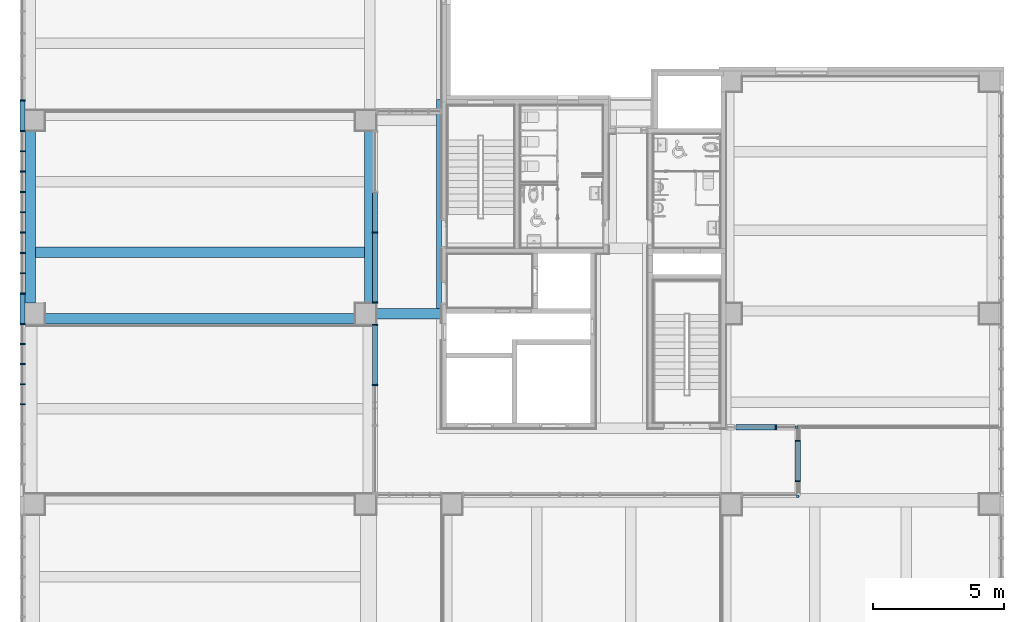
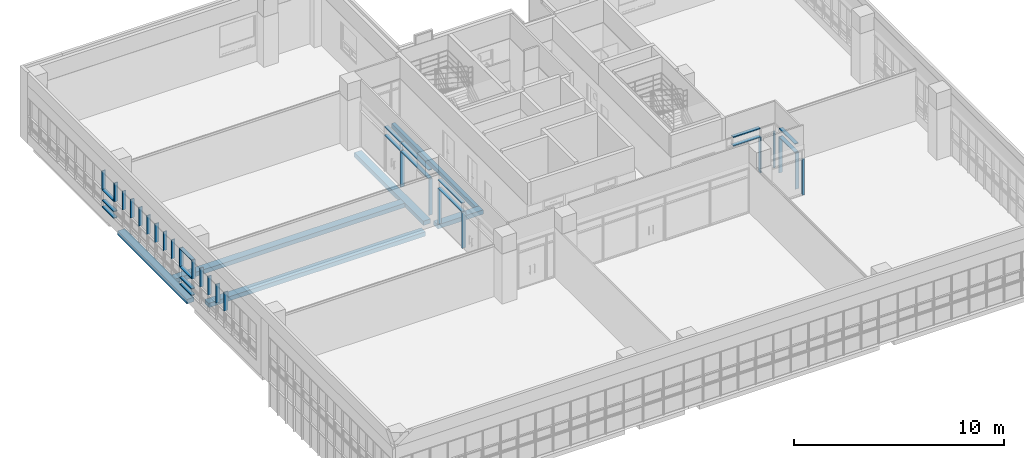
# One storey, part 5 of 81: 41 members, 6 beams, 5 elements without a shape of their own.
"""IFC2X3 building model written with IfcOpenShell, lengths in millimetres."""

import ifcopenshell
import ifcopenshell.guid

model = None  # the IFC model being written
_history = None  # IfcOwnerHistory: only IFC2X3 demands one
_inside = {}  # id of a spatial element -> (the spatial element, [elements in it])
_under = {}  # id of a project, library or spatial element -> (it, [spatial elements below it])
_declared = {}  # id of a project -> (the project, [libraries it declares])
_typed = {}  # id of a type object -> (the type object, [elements of that type])
_made_of = {}  # id of a material, layer set ... -> (it, [elements and type objects made of it])


def new_model(schema):
    """Start an empty IFC model of exactly this schema.

    Asked for "IFC4X3", IfcOpenShell would pick the latest addendum, in which some entities
    have other attributes; the version numbers below select the first issue.
    IFC2X3 requires an IfcOwnerHistory on every rooted entity: one is made here for all.
    """
    global model, _history
    if schema == "IFC4X3":
        model = ifcopenshell.file(schema_version=(4, 3, 0, 0))
    else:
        model = ifcopenshell.file(schema=schema)
    _inside.clear()
    _under.clear()
    _declared.clear()
    _typed.clear()
    _made_of.clear()
    _history = None
    if model.schema == "IFC2X3":
        org = make("IfcOrganization", Name="unknown")
        user = make(
            "IfcPersonAndOrganization",
            ThePerson=make("IfcPerson", FamilyName="unknown"),
            TheOrganization=org,
        )
        app = make(
            "IfcApplication",
            ApplicationDeveloper=org,
            Version="unknown",
            ApplicationFullName="unknown",
            ApplicationIdentifier="unknown",
        )
        _history = make(
            "IfcOwnerHistory",
            OwningUser=user,
            OwningApplication=app,
            ChangeAction="ADDED",
            CreationDate=0,
        )
    return model


def make(cls, **values):
    """One entity of the class cls with the attributes given. An attribute that is None is left unset."""
    return model.create_entity(
        cls, **{name: value for name, value in values.items() if value is not None}
    )


def entity(cls, *values):
    """Any entity or typed value of the class cls, its attributes in the order of the schema. None: left unset."""
    e = model.create_entity(cls)
    for i, value in enumerate(values):
        if value is not None:
            e[i] = value
    return e


def rooted(cls, **values):
    """An entity with a GlobalId (a new one), such as an element, a storey or a relation."""
    return make(cls, GlobalId=ifcopenshell.guid.new(), OwnerHistory=_history, **values)


def si_unit(unit_type, name, prefix=None):
    """IfcSIUnit, for example si_unit("LENGTHUNIT", "METRE", prefix="MILLI")."""
    return make("IfcSIUnit", UnitType=unit_type, Prefix=prefix, Name=name)


def converted_unit(unit_type, name, factor, base, dimensions=None, offset=None):
    """IfcConversionBasedUnit, such as the inch: factor (a typed value) times the base unit."""
    return make(
        "IfcConversionBasedUnit"
        if offset is None
        else "IfcConversionBasedUnitWithOffset",
        ConversionOffset=offset,
        Dimensions=None
        if dimensions is None
        else entity("IfcDimensionalExponents", *dimensions),
        UnitType=unit_type,
        Name=name,
        ConversionFactor=make(
            "IfcMeasureWithUnit", ValueComponent=factor, UnitComponent=base
        ),
    )


def derived_unit(unit_type, elements):
    """IfcDerivedUnit: a product of units, each with its exponent."""
    return make(
        "IfcDerivedUnit",
        Elements=[
            make("IfcDerivedUnitElement", Unit=unit, Exponent=power)
            for unit, power in elements
        ],
        UnitType=unit_type,
    )


def assignment(units):
    """IfcUnitAssignment: the units of a project."""
    return None if units is None else make("IfcUnitAssignment", Units=units)


def point(xyz):
    """IfcCartesianPoint."""
    return None if xyz is None else make("IfcCartesianPoint", Coordinates=xyz)


def direction(xyz):
    """IfcDirection."""
    return None if xyz is None else make("IfcDirection", DirectionRatios=xyz)


def frame(location, z_axis=None, x_axis=None):
    """IfcAxis2Placement3D, a coordinate frame: its origin and axes. An axis left out is left unset."""
    return make(
        "IfcAxis2Placement3D",
        Location=point(location),
        Axis=direction(z_axis),
        RefDirection=direction(x_axis),
    )


def frame_2d(location, x_axis=None):
    """IfcAxis2Placement2D, a coordinate frame in the plane: its origin and x axis."""
    return make(
        "IfcAxis2Placement2D", Location=point(location), RefDirection=direction(x_axis)
    )


def origin():
    """The frame at (0, 0, 0) with its axes left unset."""
    return frame((0.0, 0.0, 0.0))


def origin_2d_with_axis():
    """The frame at (0, 0) in the plane with the x axis (1, 0) written out."""
    return frame_2d((0.0, 0.0), x_axis=(1.0, 0.0))


def place(relative_to, where):
    """IfcLocalPlacement: puts the frame where relative to a parent placement (None: the world)."""
    return make(
        "IfcLocalPlacement", PlacementRelTo=relative_to, RelativePlacement=where
    )


def context(
    kind, dimensions, precision=None, world=None, true_north=None, identifier=None
):
    """IfcGeometricRepresentationContext, for example the 3D "Model" context."""
    return make(
        "IfcGeometricRepresentationContext",
        ContextIdentifier=identifier,
        ContextType=kind,
        CoordinateSpaceDimension=dimensions,
        Precision=precision,
        WorldCoordinateSystem=world,
        TrueNorth=true_north,
    )


def subcontext(parent, identifier, kind, view, scale=None):
    """IfcGeometricRepresentationSubContext, for example "Body" below "Model"."""
    return make(
        "IfcGeometricRepresentationSubContext",
        ContextIdentifier=identifier,
        ContextType=kind,
        ParentContext=parent,
        TargetScale=scale,
        TargetView=view,
    )


def project(units=None, contexts=None):
    """IfcProject with its units and contexts."""
    return rooted(
        "IfcProject",
        Name="project",
        RepresentationContexts=contexts,
        UnitsInContext=assignment(units),
    )


def spatial(cls, under=None, at=None, **own):
    """A site, building, storey or space (cls), placed at a placement, below another one or the project."""
    s = rooted(cls, ObjectPlacement=at, **own)
    if under is not None:
        _under.setdefault(under.id(), (under, []))[1].append(s)
    return s


def profile(cls, at=None, kind="AREA", **sizes):
    """A parametric profile (cls). Its sizes go by their IFC names, for example OverallWidth=200.0."""
    return make(cls, ProfileType=kind, Position=at, **sizes)


def rectangle(**sizes):
    """IfcRectangleProfileDef."""
    return profile("IfcRectangleProfileDef", **sizes)


def extrude(swept, where, along, depth):
    """IfcExtrudedAreaSolid: the profile swept, set in the frame where, extruded along a direction by depth."""
    return make(
        "IfcExtrudedAreaSolid",
        SweptArea=swept,
        Position=where,
        ExtrudedDirection=direction(along),
        Depth=depth,
    )


def shape(context_of_items, identifier, shape_type, items):
    """IfcShapeRepresentation: the items that make up one representation, for example the "Body"."""
    return make(
        "IfcShapeRepresentation",
        ContextOfItems=context_of_items,
        RepresentationIdentifier=identifier,
        RepresentationType=shape_type,
        Items=items,
    )


def source(mapping_origin, context_of_items, identifier, shape_type, items):
    """IfcRepresentationMap: a shape defined once, which mapped items show again and again."""
    return make(
        "IfcRepresentationMap",
        MappingOrigin=mapping_origin,
        MappedRepresentation=shape(context_of_items, identifier, shape_type, items),
    )


def transform(
    local_origin,
    x_axis=None,
    y_axis=None,
    z_axis=None,
    scale=None,
    scale2=None,
    scale3=None,
    uniform=True,
):
    """IfcCartesianTransformationOperator3D, or its non-uniform kind. x_axis, y_axis, z_axis: its Axis1, 2, 3."""
    if uniform:
        return make(
            "IfcCartesianTransformationOperator3D",
            Axis1=direction(x_axis),
            Axis2=direction(y_axis),
            LocalOrigin=point(local_origin),
            Scale=scale,
            Axis3=direction(z_axis),
        )
    return make(
        "IfcCartesianTransformationOperator3DnonUniform",
        Axis1=direction(x_axis),
        Axis2=direction(y_axis),
        LocalOrigin=point(local_origin),
        Scale=scale,
        Axis3=direction(z_axis),
        Scale2=scale2,
        Scale3=scale3,
    )


def mapped(mapping_source, mapping_target):
    """IfcMappedItem: shows the shape of a source again, moved by a transform."""
    return make(
        "IfcMappedItem", MappingSource=mapping_source, MappingTarget=mapping_target
    )


def material(Name=None, Category=None):
    """IfcMaterial."""
    return make("IfcMaterial", Name=Name, Category=Category)


def material_list(materials):
    """IfcMaterialList."""
    return make("IfcMaterialList", Materials=materials)


def made_of(thing, what):
    """Note that an element or type object is made of a material, layer set ...; save() writes the relation."""
    if what is not None:
        _made_of.setdefault(what.id(), (what, []))[1].append(thing)
    return thing


def type_object(cls, material=None, **own):
    """A type object (cls), such as IfcWallType, which elements share."""
    return made_of(rooted(cls, **own), material)


def type_shapes(of_type, sources):
    """Give a type object the sources (RepresentationMaps) that its elements show as mapped items."""
    of_type.RepresentationMaps = sources


def element(
    cls,
    number,
    at=None,
    inside=None,
    cuts=None,
    type_object=None,
    material=None,
    context=None,
    identifier="Body",
    shape_type=None,
    held_by="IfcProductDefinitionShape",
    body=None,
    shapes=None,
    **own,
):
    """One element of the class cls, such as IfcWall. Its Tag is "e" and its number.

    at: its placement. inside: the storey or other place that contains it. cuts: it is an
    opening in that element (IfcRelVoidsElement). A single representation is given by context,
    identifier, shape_type and body (its items); several are given by shapes. held_by: the class
    of the entity that holds the representations. save() writes the other relations.
    """
    e = rooted(cls, Tag="e%d" % number, ObjectPlacement=at, **own)
    if body is not None:
        shapes = [shape(context, identifier, shape_type, body)]
    if shapes is not None:
        e.Representation = make(held_by, Representations=shapes)
    if inside is not None:
        _inside.setdefault(inside.id(), (inside, []))[1].append(e)
    if cuts is not None:
        rooted(
            "IfcRelVoidsElement", RelatingBuildingElement=cuts, RelatedOpeningElement=e
        )
    if type_object is not None:
        _typed.setdefault(type_object.id(), (type_object, []))[1].append(e)
    return made_of(e, material)


def aggregate(whole, parts):
    """IfcRelAggregates: a whole, such as a stair, and the parts it consists of."""
    return rooted("IfcRelAggregates", RelatingObject=whole, RelatedObjects=parts)


def save(model, path):
    """Write the relations noted so far, then the file.

    IfcRelAggregates (storeys below a building ...), IfcRelContainedInSpatialStructure (elements
    in a storey), IfcRelDefinesByType, IfcRelAssociatesMaterial and IfcRelDeclares: one each for
    every whole, place, type object, material and project.
    """
    for whole, parts in _under.values():
        aggregate(whole, parts)
    for where, things in _inside.values():
        rooted(
            "IfcRelContainedInSpatialStructure",
            RelatedElements=things,
            RelatingStructure=where,
        )
    for kind, things in _typed.values():
        rooted("IfcRelDefinesByType", RelatedObjects=things, RelatingType=kind)
    for what, things in _made_of.values():
        rooted("IfcRelAssociatesMaterial", RelatedObjects=things, RelatingMaterial=what)
    for by, libraries in _declared.values():
        rooted("IfcRelDeclares", RelatingContext=by, RelatedDefinitions=libraries)
    model.write(path)


model = new_model("IFC2X3")

# Units and contexts
model_context = context("Model", 3, precision=0.01, world=origin(), true_north=direction((6.123031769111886e-17, 1.0)))
body_context = subcontext(model_context, "Body", "Model", "MODEL_VIEW")
ifc_project = project(units=[si_unit("LENGTHUNIT", "METRE", prefix="MILLI"), si_unit("AREAUNIT", "SQUARE_METRE"), si_unit("VOLUMEUNIT", "CUBIC_METRE"), converted_unit("PLANEANGLEUNIT", "DEGREE", entity("IfcRatioMeasure", 0.017453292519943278), si_unit("PLANEANGLEUNIT", "RADIAN"), dimensions=[0, 0, 0, 0, 0, 0, 0]), si_unit("MASSUNIT", "GRAM", prefix="KILO"), derived_unit("MASSDENSITYUNIT", [(si_unit("MASSUNIT", "GRAM", prefix="KILO"), 1), (si_unit("LENGTHUNIT", "METRE"), -3)]), derived_unit("MOMENTOFINERTIAUNIT", [(si_unit("LENGTHUNIT", "METRE"), 4)]), si_unit("TIMEUNIT", "SECOND"), si_unit("FREQUENCYUNIT", "HERTZ"), si_unit("THERMODYNAMICTEMPERATUREUNIT", "DEGREE_CELSIUS"), derived_unit("THERMALTRANSMITTANCEUNIT", [(si_unit("MASSUNIT", "GRAM", prefix="KILO"), 1), (si_unit("THERMODYNAMICTEMPERATUREUNIT", "KELVIN"), -1), (si_unit("TIMEUNIT", "SECOND"), -3)]), derived_unit("VOLUMETRICFLOWRATEUNIT", [(si_unit("LENGTHUNIT", "METRE"), 3), (si_unit("TIMEUNIT", "SECOND"), -1)]), derived_unit("MASSFLOWRATEUNIT", [(si_unit("MASSUNIT", "GRAM", prefix="KILO"), 1), (si_unit("TIMEUNIT", "SECOND"), -1)]), derived_unit("ROTATIONALFREQUENCYUNIT", [(si_unit("TIMEUNIT", "SECOND"), -1)]), si_unit("ELECTRICCURRENTUNIT", "AMPERE"), si_unit("ELECTRICVOLTAGEUNIT", "VOLT"), si_unit("POWERUNIT", "WATT"), si_unit("FORCEUNIT", "NEWTON", prefix="KILO"), si_unit("ILLUMINANCEUNIT", "LUX"), si_unit("LUMINOUSFLUXUNIT", "LUMEN"), si_unit("LUMINOUSINTENSITYUNIT", "CANDELA"), derived_unit("USERDEFINED", [(si_unit("MASSUNIT", "GRAM", prefix="KILO"), -1), (si_unit("LENGTHUNIT", "METRE"), -2), (si_unit("TIMEUNIT", "SECOND"), 3), (si_unit("LUMINOUSFLUXUNIT", "LUMEN"), 1)]), derived_unit("SOUNDPOWERUNIT", [(si_unit("MASSUNIT", "GRAM", prefix="KILO"), 1), (si_unit("LENGTHUNIT", "METRE"), 2), (si_unit("TIMEUNIT", "SECOND"), -3)]), derived_unit("SOUNDPRESSUREUNIT", [(si_unit("MASSUNIT", "GRAM", prefix="KILO"), 1), (si_unit("LENGTHUNIT", "METRE"), -1), (si_unit("TIMEUNIT", "SECOND"), -2)]), derived_unit("LINEARVELOCITYUNIT", [(si_unit("LENGTHUNIT", "METRE"), 1), (si_unit("TIMEUNIT", "SECOND"), -1)]), si_unit("PRESSUREUNIT", "PASCAL"), derived_unit("USERDEFINED", [(si_unit("LENGTHUNIT", "METRE"), -2), (si_unit("MASSUNIT", "GRAM", prefix="KILO"), 1), (si_unit("TIMEUNIT", "SECOND"), -2)]), derived_unit("LINEARFORCEUNIT", [(si_unit("MASSUNIT", "GRAM", prefix="KILO"), 1), (si_unit("LENGTHUNIT", "METRE"), 1), (si_unit("TIMEUNIT", "SECOND"), -2), (si_unit("LENGTHUNIT", "METRE"), -1)]), derived_unit("PLANARFORCEUNIT", [(si_unit("MASSUNIT", "GRAM", prefix="KILO"), 1), (si_unit("LENGTHUNIT", "METRE"), 1), (si_unit("TIMEUNIT", "SECOND"), -2), (si_unit("LENGTHUNIT", "METRE"), -2)])], contexts=[model_context])

# Site, building, storey
site_placement = place(None, frame((-14167.972527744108, -657.2125860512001, 0.0)))
site = spatial("IfcSite", under=ifc_project, at=site_placement, Name="Default", CompositionType="ELEMENT")
building_placement = place(site_placement, origin())
building = spatial("IfcBuilding", under=site, at=building_placement, Name="Sample Building", CompositionType="ELEMENT")
storey_placement = place(building_placement, frame((0.0, 0.0, 13400.0)))
storey = spatial("IfcBuildingStorey", under=building, at=storey_placement, Name="지상 4층", CompositionType="ELEMENT", Elevation=13400.00000000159)

# Curtain wall, member
curtain_wall_type = type_object("IfcCurtainWallType", Name="커튼월:CW112-스테인리스 스틸 커튼월", PredefinedType="NOTDEFINED")
curtain_wall_1_placement = place(storey_placement, frame((0.0, 0.0, -13400.0)))
curtain_wall_1 = element("IfcCurtainWall", 1, at=curtain_wall_1_placement, inside=storey, type_object=curtain_wall_type, Name="커튼월:CW112-스테인리스 스틸 커튼월", ObjectType="커튼월:CW112-스테인리스 스틸 커튼월")
ifc_material_1 = material(Name="<Unnamed>")
member_type_1 = type_object("IfcMemberType", Name="직사각형 멀리언:CW200-직사각형 멀리언 50x200mm", PredefinedType="MULLION", material=ifc_material_1)
shared_shape_1 = source(origin(), body_context, "Body", "SweptSolid", [
    extrude(rectangle(XDim=200.0, YDim=50.0, at=origin_2d_with_axis()), frame((-25.0, 0.0, -2100.0), z_axis=(0.0, 0.0, 1.0), x_axis=(0.0, -1.0, 0.0)), (0.0, 0.0, 1.0), 2100.0),
])
type_shapes(member_type_1, [shared_shape_1])
member_1_placement = place(curtain_wall_1_placement, frame((27523.08697283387, 20357.212307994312, 13480.0), z_axis=(0.0, 0.0, -1.0), x_axis=(0.0, -1.0, 0.0)))
member_1 = element("IfcMember", 2, at=member_1_placement, type_object=member_type_1, material=ifc_material_1, Name="직사각형 멀리언:CW200-직사각형 멀리언 50x200mm", ObjectType="직사각형 멀리언:CW200-직사각형 멀리언 50x200mm", context=body_context, shape_type="MappedRepresentation", body=[
    mapped(shared_shape_1, transform((0.0, 0.0, 0.0), scale=1.0)),
])

curtain_wall_2_placement = place(storey_placement, frame((0.0, 0.0, -13400.0)))
curtain_wall_2 = element("IfcCurtainWall", 3, at=curtain_wall_2_placement, inside=storey, type_object=curtain_wall_type, Name="커튼월:CW112-스테인리스 스틸 커튼월", ObjectType="커튼월:CW112-스테인리스 스틸 커튼월")
member_type_2 = type_object("IfcMemberType", Name="직사각형 멀리언:CW200-직사각형 멀리언 50x200mm", PredefinedType="MULLION", material=ifc_material_1)
shared_shape_2 = source(origin(), body_context, "Body", "SweptSolid", [
    extrude(rectangle(XDim=200.0, YDim=50.0, at=origin_2d_with_axis()), frame((-25.0, 0.0, -1120.0), z_axis=(0.0, 0.0, 1.0), x_axis=(0.0, -1.0, 0.0)), (0.0, 0.0, 1.0), 1120.0000000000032),
])
type_shapes(member_type_2, [shared_shape_2])
member_2_placement = place(curtain_wall_2_placement, frame((14018.57055548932, 19578.817707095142, 16100.0), z_axis=(0.0, -1.0, 0.0), x_axis=(0.0, 0.0, 1.0)))
member_2 = element("IfcMember", 4, at=member_2_placement, type_object=member_type_2, material=ifc_material_1, Name="직사각형 멀리언:CW200-직사각형 멀리언 50x200mm", ObjectType="직사각형 멀리언:CW200-직사각형 멀리언 50x200mm", context=body_context, shape_type="MappedRepresentation", body=[
    mapped(shared_shape_2, transform((0.0, 0.0, 0.0), scale=1.0)),
])

# Member
member_type_3 = type_object("IfcMemberType", Name="직사각형 멀리언:CW200-직사각형 멀리언 50x200mm", PredefinedType="MULLION", material=ifc_material_1)
shared_shape_3 = source(origin(), body_context, "Body", "SweptSolid", [
    extrude(rectangle(XDim=200.0, YDim=50.0, at=origin_2d_with_axis()), frame((-25.0, 0.0, -1500.0), z_axis=(0.0, 0.0, 1.0), x_axis=(0.0, -1.0, 0.0)), (0.0, 0.0, 1.0), 1500.0000000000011),
])
type_shapes(member_type_3, [shared_shape_3])
member_3_placement = place(curtain_wall_1_placement, frame((27523.086972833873, 23092.21230799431, 16100.0), z_axis=(0.0, -1.0, 0.0), x_axis=(0.0, 0.0, 1.0)))
member_3 = element("IfcMember", 5, at=member_3_placement, type_object=member_type_3, material=ifc_material_1, Name="직사각형 멀리언:CW200-직사각형 멀리언 50x200mm", ObjectType="직사각형 멀리언:CW200-직사각형 멀리언 50x200mm", context=body_context, shape_type="MappedRepresentation", body=[
    mapped(shared_shape_3, transform((0.0, 0.0, 0.0), scale=1.0)),
])

# Curtain wall, member
curtain_wall_3_placement = place(storey_placement, frame((0.0, 0.0, -13400.0)))
curtain_wall_3 = element("IfcCurtainWall", 6, at=curtain_wall_3_placement, inside=storey, type_object=curtain_wall_type, Name="커튼월:CW112-스테인리스 스틸 커튼월", ObjectType="커튼월:CW112-스테인리스 스틸 커튼월")
member_4_placement = place(curtain_wall_3_placement, frame((43717.972491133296, 15062.177678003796, 16100.0), z_axis=(0.0, 1.0, 0.0), x_axis=(0.0, 0.0, 1.0)))
member_4 = element("IfcMember", 7, at=member_4_placement, type_object=member_type_3, material=ifc_material_1, Name="직사각형 멀리언:CW200-직사각형 멀리언 50x200mm", ObjectType="직사각형 멀리언:CW200-직사각형 멀리언 50x200mm", context=body_context, shape_type="MappedRepresentation", body=[
    mapped(shared_shape_3, transform((0.0, 0.0, 0.0), scale=1.0)),
])

curtain_wall_4_placement = place(storey_placement, frame((0.0, 0.0, -13400.0)))
curtain_wall_4 = element("IfcCurtainWall", 8, at=curtain_wall_4_placement, inside=storey, type_object=curtain_wall_type, Name="커튼월:CW112-스테인리스 스틸 커튼월", ObjectType="커튼월:CW112-스테인리스 스틸 커튼월")
member_type_4 = type_object("IfcMemberType", Name="직사각형 멀리언:CW200-직사각형 멀리언 50x200mm", PredefinedType="MULLION", material=ifc_material_1)
shared_shape_4 = source(origin(), body_context, "Body", "SweptSolid", [
    extrude(rectangle(XDim=200.0, YDim=50.0, at=origin_2d_with_axis()), frame((-25.0, 0.0, -2100.0), z_axis=(0.0, 0.0, 1.0), x_axis=(0.0, -1.0, 0.0)), (0.0, 0.0, 1.0), 2099.9999999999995),
])
type_shapes(member_type_4, [shared_shape_4])
member_5_placement = place(curtain_wall_4_placement, frame((27522.95510516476, 19557.212617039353, 15580.0), z_axis=(0.0, 0.0, 1.0), x_axis=(0.0, 1.0, 0.0)))
member_5 = element("IfcMember", 9, at=member_5_placement, type_object=member_type_4, material=ifc_material_1, Name="직사각형 멀리언:CW200-직사각형 멀리언 50x200mm", ObjectType="직사각형 멀리언:CW200-직사각형 멀리언 50x200mm", context=body_context, shape_type="MappedRepresentation", body=[
    mapped(shared_shape_4, transform((0.0, 0.0, 0.0), scale=1.0)),
])

# Member
member_type_5 = type_object("IfcMemberType", Name="직사각형 멀리언:CW200-직사각형 멀리언 50x200mm", PredefinedType="MULLION", material=ifc_material_1)
shared_shape_5 = source(origin(), body_context, "Body", "SweptSolid", [
    extrude(rectangle(XDim=200.0, YDim=50.0, at=origin_2d_with_axis()), frame((0.0, 0.0, -1500.0), z_axis=(0.0, 0.0, 1.0), x_axis=(0.0, -1.0, 0.0)), (0.0, 0.0, 1.0), 1500.0000000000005),
])
type_shapes(member_type_5, [shared_shape_5])
member_6_placement = place(curtain_wall_1_placement, frame((27523.086972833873, 23092.21230799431, 15580.0), z_axis=(0.0, -1.0, 0.0), x_axis=(0.0, 0.0, 1.0)))
member_6 = element("IfcMember", 10, at=member_6_placement, type_object=member_type_5, material=ifc_material_1, Name="직사각형 멀리언:CW200-직사각형 멀리언 50x200mm", ObjectType="직사각형 멀리언:CW200-직사각형 멀리언 50x200mm", context=body_context, shape_type="MappedRepresentation", body=[
    mapped(shared_shape_5, transform((0.0, 0.0, 0.0), scale=1.0)),
])

member_7_placement = place(curtain_wall_3_placement, frame((43717.972491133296, 15062.177678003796, 15580.0), z_axis=(0.0, 1.0, 0.0), x_axis=(0.0, 0.0, 1.0)))
member_7 = element("IfcMember", 11, at=member_7_placement, type_object=member_type_5, material=ifc_material_1, Name="직사각형 멀리언:CW200-직사각형 멀리언 50x200mm", ObjectType="직사각형 멀리언:CW200-직사각형 멀리언 50x200mm", context=body_context, shape_type="MappedRepresentation", body=[
    mapped(shared_shape_5, transform((0.0, 0.0, 0.0), scale=1.0)),
])

member_type_6 = type_object("IfcMemberType", Name="직사각형 멀리언:CW200-직사각형 멀리언 50x200mm", PredefinedType="MULLION", material=ifc_material_1)
shared_shape_6 = source(origin(), body_context, "Body", "SweptSolid", [
    extrude(rectangle(XDim=200.0, YDim=50.0, at=origin_2d_with_axis()), frame((-25.0, 0.0, -1120.0), z_axis=(0.0, 0.0, 1.0), x_axis=(0.0, -1.0, 0.0)), (0.0, 0.0, 1.0), 1120.0000000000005),
])
type_shapes(member_type_6, [shared_shape_6])
member_8_placement = place(curtain_wall_2_placement, frame((14018.570555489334, 28100.81770709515, 14000.0), z_axis=(0.0, 1.0, 0.0), x_axis=(0.0, 0.0, -1.0)))
member_8 = element("IfcMember", 12, at=member_8_placement, type_object=member_type_6, material=ifc_material_1, Name="직사각형 멀리언:CW200-직사각형 멀리언 50x200mm", ObjectType="직사각형 멀리언:CW200-직사각형 멀리언 50x200mm", context=body_context, shape_type="MappedRepresentation", body=[
    mapped(shared_shape_6, transform((0.0, 0.0, 0.0), scale=1.0)),
])

member_9_placement = place(curtain_wall_2_placement, frame((14018.570555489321, 20698.81770709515, 14000.0), z_axis=(0.0, 1.0, 0.0), x_axis=(0.0, 0.0, -1.0)))
member_9 = element("IfcMember", 13, at=member_9_placement, type_object=member_type_6, material=ifc_material_1, Name="직사각형 멀리언:CW200-직사각형 멀리언 50x200mm", ObjectType="직사각형 멀리언:CW200-직사각형 멀리언 50x200mm", context=body_context, shape_type="MappedRepresentation", body=[
    mapped(shared_shape_6, transform((0.0, 0.0, 0.0), scale=1.0)),
])

member_type_7 = type_object("IfcMemberType", Name="직사각형 멀리언:CW200-직사각형 멀리언 50x200mm", PredefinedType="MULLION", material=ifc_material_1)
shared_shape_7 = source(origin(), body_context, "Body", "SweptSolid", [
    extrude(rectangle(XDim=200.0, YDim=50.0, at=origin_2d_with_axis()), frame((0.0, 0.0, -1120.0), z_axis=(0.0, 0.0, 1.0), x_axis=(0.0, -1.0, 0.0)), (0.0, 0.0, 1.0), 1120.0000000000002),
])
type_shapes(member_type_7, [shared_shape_7])
member_10_placement = place(curtain_wall_2_placement, frame((14018.570555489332, 26980.81770709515, 14400.0), z_axis=(0.0, -1.0, 0.0), x_axis=(0.0, 0.0, 1.0)))
member_10 = element("IfcMember", 14, at=member_10_placement, type_object=member_type_7, material=ifc_material_1, Name="직사각형 멀리언:CW200-직사각형 멀리언 50x200mm", ObjectType="직사각형 멀리언:CW200-직사각형 멀리언 50x200mm", context=body_context, shape_type="MappedRepresentation", body=[
    mapped(shared_shape_7, transform((0.0, 0.0, 0.0), scale=1.0)),
])

member_11_placement = place(curtain_wall_2_placement, frame((14018.570555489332, 26980.81770709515, 15000.0), z_axis=(0.0, -1.0, 0.0), x_axis=(0.0, 0.0, 1.0)))
member_11 = element("IfcMember", 15, at=member_11_placement, type_object=member_type_7, material=ifc_material_1, Name="직사각형 멀리언:CW200-직사각형 멀리언 50x200mm", ObjectType="직사각형 멀리언:CW200-직사각형 멀리언 50x200mm", context=body_context, shape_type="MappedRepresentation", body=[
    mapped(shared_shape_7, transform((0.0, 0.0, 0.0), scale=1.0)),
])

member_12_placement = place(curtain_wall_2_placement, frame((14018.57055548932, 19578.817707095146, 14400.0), z_axis=(0.0, -1.0, 0.0), x_axis=(0.0, 0.0, 1.0)))
member_12 = element("IfcMember", 16, at=member_12_placement, type_object=member_type_7, material=ifc_material_1, Name="직사각형 멀리언:CW200-직사각형 멀리언 50x200mm", ObjectType="직사각형 멀리언:CW200-직사각형 멀리언 50x200mm", context=body_context, shape_type="MappedRepresentation", body=[
    mapped(shared_shape_7, transform((0.0, 0.0, 0.0), scale=1.0)),
])

member_13_placement = place(curtain_wall_2_placement, frame((14018.57055548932, 19578.817707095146, 15000.0), z_axis=(0.0, -1.0, 0.0), x_axis=(0.0, 0.0, 1.0)))
member_13 = element("IfcMember", 17, at=member_13_placement, type_object=member_type_7, material=ifc_material_1, Name="직사각형 멀리언:CW200-직사각형 멀리언 50x200mm", ObjectType="직사각형 멀리언:CW200-직사각형 멀리언 50x200mm", context=body_context, shape_type="MappedRepresentation", body=[
    mapped(shared_shape_7, transform((0.0, 0.0, 0.0), scale=1.0)),
])

# Curtain wall, members
curtain_wall_5_placement = place(storey_placement, frame((0.0, 0.0, -13400.0)))
curtain_wall_5 = element("IfcCurtainWall", 18, at=curtain_wall_5_placement, inside=storey, type_object=curtain_wall_type, Name="커튼월:CW112-스테인리스 스틸 커튼월", ObjectType="커튼월:CW112-스테인리스 스틸 커튼월")
member_type_8 = type_object("IfcMemberType", Name="직사각형 멀리언:CW200-직사각형 멀리언 50x200mm", PredefinedType="MULLION", material=ifc_material_1)
shared_shape_8 = source(origin(), body_context, "Body", "SweptSolid", [
    extrude(rectangle(XDim=200.0, YDim=50.0, at=origin_2d_with_axis()), frame((0.0, 0.0, -1495.0), z_axis=(0.0, 0.0, 1.0), x_axis=(0.0, -1.0, 0.0)), (0.0, 0.0, 1.0), 1494.9999999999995),
])
type_shapes(member_type_8, [shared_shape_8])
member_14_placement = place(curtain_wall_5_placement, frame((41357.972491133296, 15602.21258605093, 15580.0), z_axis=(-1.0, 0.0, 0.0), x_axis=(0.0, 0.0, 1.0)))
member_14 = element("IfcMember", 19, at=member_14_placement, type_object=member_type_8, material=ifc_material_1, Name="직사각형 멀리언:CW200-직사각형 멀리언 50x200mm", ObjectType="직사각형 멀리언:CW200-직사각형 멀리언 50x200mm", context=body_context, shape_type="MappedRepresentation", body=[
    mapped(shared_shape_8, transform((0.0, 0.0, 0.0), scale=1.0)),
])
member_type_9 = type_object("IfcMemberType", Name="직사각형 멀리언:CW200-직사각형 멀리언 50x200mm", PredefinedType="MULLION", material=ifc_material_1)
shared_shape_9 = source(origin(), body_context, "Body", "SweptSolid", [
    extrude(rectangle(XDim=200.0, YDim=50.0, at=origin_2d_with_axis()), frame((-25.0, 0.0, -1495.0), z_axis=(0.0, 0.0, 1.0), x_axis=(0.0, -1.0, 0.0)), (0.0, 0.0, 1.0), 1495.0000000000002),
])
type_shapes(member_type_9, [shared_shape_9])
member_15_placement = place(curtain_wall_5_placement, frame((41357.972491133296, 15602.21258605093, 16100.0), z_axis=(-1.0, 0.0, 0.0), x_axis=(0.0, 0.0, 1.0)))
member_15 = element("IfcMember", 20, at=member_15_placement, type_object=member_type_9, material=ifc_material_1, Name="직사각형 멀리언:CW200-직사각형 멀리언 50x200mm", ObjectType="직사각형 멀리언:CW200-직사각형 멀리언 50x200mm", context=body_context, shape_type="MappedRepresentation", body=[
    mapped(shared_shape_9, transform((0.0, 0.0, 0.0), scale=1.0)),
])

# Member
member_type_10 = type_object("IfcMemberType", Name="직사각형 멀리언:CW200-직사각형 멀리언 50x200mm", PredefinedType="MULLION", material=ifc_material_1)
shared_shape_10 = source(origin(), body_context, "Body", "SweptSolid", [
    extrude(rectangle(XDim=200.0, YDim=50.0, at=origin_2d_with_axis()), frame((0.0, 0.0, -2100.0), z_axis=(0.0, 0.0, 1.0), x_axis=(0.0, -1.0, 0.0)), (0.0, 0.0, 1.0), 2100.0),
])
type_shapes(member_type_10, [shared_shape_10])
member_16_placement = place(curtain_wall_4_placement, frame((27522.955105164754, 17217.177624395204, 13480.0), z_axis=(0.0, 0.0, -1.0), x_axis=(0.0, -1.0, 0.0)))
member_16 = element("IfcMember", 21, at=member_16_placement, type_object=member_type_10, material=ifc_material_1, Name="직사각형 멀리언:CW200-직사각형 멀리언 50x200mm", ObjectType="직사각형 멀리언:CW200-직사각형 멀리언 50x200mm", context=body_context, shape_type="MappedRepresentation", body=[
    mapped(shared_shape_10, transform((0.0, 0.0, 0.0), scale=1.0)),
])

member_17_placement = place(curtain_wall_1_placement, frame((27523.086972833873, 23067.212307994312, 13480.0), z_axis=(0.0, 0.0, -1.0), x_axis=(0.0, -1.0, 0.0)))
member_17 = element("IfcMember", 22, at=member_17_placement, type_object=member_type_10, material=ifc_material_1, Name="직사각형 멀리언:CW200-직사각형 멀리언 50x200mm", ObjectType="직사각형 멀리언:CW200-직사각형 멀리언 50x200mm", context=body_context, shape_type="MappedRepresentation", body=[
    mapped(shared_shape_10, transform((0.0, 0.0, 0.0), scale=1.0)),
])

member_18_placement = place(curtain_wall_3_placement, frame((43717.972491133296, 13537.177678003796, 13480.0), z_axis=(0.0, 0.0, -1.0), x_axis=(0.0, 1.0, 0.0)))
member_18 = element("IfcMember", 23, at=member_18_placement, type_object=member_type_10, material=ifc_material_1, Name="직사각형 멀리언:CW200-직사각형 멀리언 50x200mm", ObjectType="직사각형 멀리언:CW200-직사각형 멀리언 50x200mm", context=body_context, shape_type="MappedRepresentation", body=[
    mapped(shared_shape_10, transform((0.0, 0.0, 0.0), scale=1.0)),
])

member_19_placement = place(curtain_wall_3_placement, frame((43717.972491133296, 15087.177678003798, 13480.0), z_axis=(0.0, 0.0, -1.0), x_axis=(0.0, 1.0, 0.0)))
member_19 = element("IfcMember", 24, at=member_19_placement, type_object=member_type_10, material=ifc_material_1, Name="직사각형 멀리언:CW200-직사각형 멀리언 50x200mm", ObjectType="직사각형 멀리언:CW200-직사각형 멀리언 50x200mm", context=body_context, shape_type="MappedRepresentation", body=[
    mapped(shared_shape_10, transform((0.0, 0.0, 0.0), scale=1.0)),
])

member_20_placement = place(curtain_wall_5_placement, frame((42877.972491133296, 15602.212586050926, 13480.0), z_axis=(0.0, 0.0, -1.0), x_axis=(-1.0, 0.0, 0.0)))
member_20 = element("IfcMember", 25, at=member_20_placement, type_object=member_type_10, material=ifc_material_1, Name="직사각형 멀리언:CW200-직사각형 멀리언 50x200mm", ObjectType="직사각형 멀리언:CW200-직사각형 멀리언 50x200mm", context=body_context, shape_type="MappedRepresentation", body=[
    mapped(shared_shape_10, transform((0.0, 0.0, 0.0), scale=1.0)),
])

member_type_11 = type_object("IfcMemberType", Name="직사각형 멀리언:CW200-직사각형 멀리언 50x200mm", PredefinedType="MULLION", material=ifc_material_1)
shared_shape_11 = source(origin(), body_context, "Body", "SweptSolid", [
    extrude(rectangle(XDim=200.0, YDim=50.0, at=origin_2d_with_axis()), frame((-25.0, 0.0, -2635.0), z_axis=(0.0, 0.0, 1.0), x_axis=(0.0, -1.0, 0.0)), (0.0, 0.0, 1.0), 2635.000000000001),
])
type_shapes(member_type_11, [shared_shape_11])
member_21_placement = place(curtain_wall_1_placement, frame((27523.08697283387, 20407.212307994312, 16100.0), z_axis=(0.0, -1.0, 0.0), x_axis=(0.0, 0.0, 1.0)))
member_21 = element("IfcMember", 26, at=member_21_placement, type_object=member_type_11, material=ifc_material_1, Name="직사각형 멀리언:CW200-직사각형 멀리언 50x200mm", ObjectType="직사각형 멀리언:CW200-직사각형 멀리언 50x200mm", context=body_context, shape_type="MappedRepresentation", body=[
    mapped(shared_shape_11, transform((0.0, 0.0, 0.0), scale=1.0)),
])

member_type_12 = type_object("IfcMemberType", Name="직사각형 멀리언:CW200-직사각형 멀리언 50x200mm", PredefinedType="MULLION", material=ifc_material_1)
shared_shape_12 = source(origin(), body_context, "Body", "SweptSolid", [
    extrude(rectangle(XDim=200.0, YDim=50.0, at=origin_2d_with_axis()), frame((-25.0, 0.0, -2265.0), z_axis=(0.0, 0.0, 1.0), x_axis=(0.0, -1.0, 0.0)), (0.0, 0.0, 1.0), 2265.0000000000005),
])
type_shapes(member_type_12, [shared_shape_12])
member_22_placement = place(curtain_wall_4_placement, frame((27522.955105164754, 17242.177624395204, 16100.0), z_axis=(0.0, -1.0, 0.0), x_axis=(0.0, 0.0, 1.0)))
member_22 = element("IfcMember", 27, at=member_22_placement, type_object=member_type_12, material=ifc_material_1, Name="직사각형 멀리언:CW200-직사각형 멀리언 50x200mm", ObjectType="직사각형 멀리언:CW200-직사각형 멀리언 50x200mm", context=body_context, shape_type="MappedRepresentation", body=[
    mapped(shared_shape_12, transform((0.0, 0.0, 0.0), scale=1.0)),
])

member_type_13 = type_object("IfcMemberType", Name="직사각형 멀리언:CW200-직사각형 멀리언 50x200mm", PredefinedType="MULLION", material=ifc_material_1)
shared_shape_13 = source(origin(), body_context, "Body", "SweptSolid", [
    extrude(rectangle(XDim=200.0, YDim=50.0, at=origin_2d_with_axis()), frame((0.0, 0.0, -2265.0), z_axis=(0.0, 0.0, 1.0), x_axis=(0.0, -1.0, 0.0)), (0.0, 0.0, 1.0), 2265.000000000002),
])
type_shapes(member_type_13, [shared_shape_13])
member_23_placement = place(curtain_wall_4_placement, frame((27522.955105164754, 17242.177624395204, 15580.0), z_axis=(0.0, -1.0, 0.0), x_axis=(0.0, 0.0, 1.0)))
member_23 = element("IfcMember", 28, at=member_23_placement, type_object=member_type_13, material=ifc_material_1, Name="직사각형 멀리언:CW200-직사각형 멀리언 50x200mm", ObjectType="직사각형 멀리언:CW200-직사각형 멀리언 50x200mm", context=body_context, shape_type="MappedRepresentation", body=[
    mapped(shared_shape_13, transform((0.0, 0.0, 0.0), scale=1.0)),
])

aggregate(curtain_wall_4, [member_22, member_16, member_5, member_23])

member_type_14 = type_object("IfcMemberType", Name="직사각형 멀리언:CW200-직사각형 멀리언 50x200mm", PredefinedType="MULLION", material=ifc_material_1)
shared_shape_14 = source(origin(), body_context, "Body", "SweptSolid", [
    extrude(rectangle(XDim=200.0, YDim=50.0, at=origin_2d_with_axis()), frame((0.0, 0.0, -2635.0), z_axis=(0.0, 0.0, 1.0), x_axis=(0.0, -1.0, 0.0)), (0.0, 0.0, 1.0), 2635.0),
])
type_shapes(member_type_14, [shared_shape_14])
member_24_placement = place(curtain_wall_1_placement, frame((27523.08697283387, 20407.212307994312, 15580.0), z_axis=(0.0, -1.0, 0.0), x_axis=(0.0, 0.0, 1.0)))
member_24 = element("IfcMember", 29, at=member_24_placement, type_object=member_type_14, material=ifc_material_1, Name="직사각형 멀리언:CW200-직사각형 멀리언 50x200mm", ObjectType="직사각형 멀리언:CW200-직사각형 멀리언 50x200mm", context=body_context, shape_type="MappedRepresentation", body=[
    mapped(shared_shape_14, transform((0.0, 0.0, 0.0), scale=1.0)),
])

aggregate(curtain_wall_1, [member_21, member_1, member_3, member_17, member_6, member_24])

member_type_15 = type_object("IfcMemberType", Name="직사각형 멀리언:CW200-직사각형 멀리언 50x200mm", PredefinedType="MULLION", material=ifc_material_1)
shared_shape_15 = source(origin(), body_context, "Body", "SweptSolid", [
    extrude(rectangle(XDim=200.0, YDim=50.0, at=origin_2d_with_axis()), frame((0.0, 0.0, -1100.0), z_axis=(0.0, 0.0, 1.0), x_axis=(0.0, -1.0, 0.0)), (0.0, 0.0, 1.0), 1100.0000000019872),
])
type_shapes(member_type_15, [shared_shape_15])
member_25_placement = place(curtain_wall_2_placement, frame((14018.570555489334, 28125.81770709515, 15000.0), z_axis=(0.0, 0.0, -1.0), x_axis=(0.0, -1.0, 0.0)))
member_25 = element("IfcMember", 30, at=member_25_placement, type_object=member_type_15, material=ifc_material_1, Name="직사각형 멀리언:CW200-직사각형 멀리언 50x200mm", ObjectType="직사각형 멀리언:CW200-직사각형 멀리언 50x200mm", context=body_context, shape_type="MappedRepresentation", body=[
    mapped(shared_shape_15, transform((0.0, 0.0, 0.0), scale=1.0)),
])

member_26_placement = place(curtain_wall_2_placement, frame((14018.570555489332, 26955.81770709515, 15000.0), z_axis=(0.0, 0.0, -1.0), x_axis=(0.0, -1.0, 0.0)))
member_26 = element("IfcMember", 31, at=member_26_placement, type_object=member_type_15, material=ifc_material_1, Name="직사각형 멀리언:CW200-직사각형 멀리언 50x200mm", ObjectType="직사각형 멀리언:CW200-직사각형 멀리언 50x200mm", context=body_context, shape_type="MappedRepresentation", body=[
    mapped(shared_shape_15, transform((0.0, 0.0, 0.0), scale=1.0)),
])

member_27_placement = place(curtain_wall_2_placement, frame((14018.57055548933, 26176.81770709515, 15000.0), z_axis=(0.0, 0.0, -1.0), x_axis=(0.0, -1.0, 0.0)))
member_27 = element("IfcMember", 32, at=member_27_placement, type_object=member_type_15, material=ifc_material_1, Name="직사각형 멀리언:CW200-직사각형 멀리언 50x200mm", ObjectType="직사각형 멀리언:CW200-직사각형 멀리언 50x200mm", context=body_context, shape_type="MappedRepresentation", body=[
    mapped(shared_shape_15, transform((0.0, 0.0, 0.0), scale=1.0)),
])

member_28_placement = place(curtain_wall_2_placement, frame((14018.57055548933, 25397.81770709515, 15000.0), z_axis=(0.0, 0.0, -1.0), x_axis=(0.0, -1.0, 0.0)))
member_28 = element("IfcMember", 33, at=member_28_placement, type_object=member_type_15, material=ifc_material_1, Name="직사각형 멀리언:CW200-직사각형 멀리언 50x200mm", ObjectType="직사각형 멀리언:CW200-직사각형 멀리언 50x200mm", context=body_context, shape_type="MappedRepresentation", body=[
    mapped(shared_shape_15, transform((0.0, 0.0, 0.0), scale=1.0)),
])

member_29_placement = place(curtain_wall_2_placement, frame((14018.570555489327, 24618.81770709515, 15000.0), z_axis=(0.0, 0.0, -1.0), x_axis=(0.0, -1.0, 0.0)))
member_29 = element("IfcMember", 34, at=member_29_placement, type_object=member_type_15, material=ifc_material_1, Name="직사각형 멀리언:CW200-직사각형 멀리언 50x200mm", ObjectType="직사각형 멀리언:CW200-직사각형 멀리언 50x200mm", context=body_context, shape_type="MappedRepresentation", body=[
    mapped(shared_shape_15, transform((0.0, 0.0, 0.0), scale=1.0)),
])

member_30_placement = place(curtain_wall_2_placement, frame((14018.570555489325, 23839.81770709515, 15000.0), z_axis=(0.0, 0.0, -1.0), x_axis=(0.0, -1.0, 0.0)))
member_30 = element("IfcMember", 35, at=member_30_placement, type_object=member_type_15, material=ifc_material_1, Name="직사각형 멀리언:CW200-직사각형 멀리언 50x200mm", ObjectType="직사각형 멀리언:CW200-직사각형 멀리언 50x200mm", context=body_context, shape_type="MappedRepresentation", body=[
    mapped(shared_shape_15, transform((0.0, 0.0, 0.0), scale=1.0)),
])

member_31_placement = place(curtain_wall_2_placement, frame((14018.570555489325, 23060.81770709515, 15000.0), z_axis=(0.0, 0.0, -1.0), x_axis=(0.0, -1.0, 0.0)))
member_31 = element("IfcMember", 36, at=member_31_placement, type_object=member_type_15, material=ifc_material_1, Name="직사각형 멀리언:CW200-직사각형 멀리언 50x200mm", ObjectType="직사각형 멀리언:CW200-직사각형 멀리언 50x200mm", context=body_context, shape_type="MappedRepresentation", body=[
    mapped(shared_shape_15, transform((0.0, 0.0, 0.0), scale=1.0)),
])

member_32_placement = place(curtain_wall_2_placement, frame((14018.570555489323, 22281.81770709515, 15000.0), z_axis=(0.0, 0.0, -1.0), x_axis=(0.0, -1.0, 0.0)))
member_32 = element("IfcMember", 37, at=member_32_placement, type_object=member_type_15, material=ifc_material_1, Name="직사각형 멀리언:CW200-직사각형 멀리언 50x200mm", ObjectType="직사각형 멀리언:CW200-직사각형 멀리언 50x200mm", context=body_context, shape_type="MappedRepresentation", body=[
    mapped(shared_shape_15, transform((0.0, 0.0, 0.0), scale=1.0)),
])

member_33_placement = place(curtain_wall_2_placement, frame((14018.570555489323, 21502.817707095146, 15000.0), z_axis=(0.0, 0.0, -1.0), x_axis=(0.0, -1.0, 0.0)))
member_33 = element("IfcMember", 38, at=member_33_placement, type_object=member_type_15, material=ifc_material_1, Name="직사각형 멀리언:CW200-직사각형 멀리언 50x200mm", ObjectType="직사각형 멀리언:CW200-직사각형 멀리언 50x200mm", context=body_context, shape_type="MappedRepresentation", body=[
    mapped(shared_shape_15, transform((0.0, 0.0, 0.0), scale=1.0)),
])

member_34_placement = place(curtain_wall_2_placement, frame((14018.570555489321, 20723.817707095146, 15000.0), z_axis=(0.0, 0.0, -1.0), x_axis=(0.0, -1.0, 0.0)))
member_34 = element("IfcMember", 39, at=member_34_placement, type_object=member_type_15, material=ifc_material_1, Name="직사각형 멀리언:CW200-직사각형 멀리언 50x200mm", ObjectType="직사각형 멀리언:CW200-직사각형 멀리언 50x200mm", context=body_context, shape_type="MappedRepresentation", body=[
    mapped(shared_shape_15, transform((0.0, 0.0, 0.0), scale=1.0)),
])

member_35_placement = place(curtain_wall_2_placement, frame((14018.57055548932, 18787.31770709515, 15000.0), z_axis=(0.0, 0.0, -1.0), x_axis=(0.0, -1.0, 0.0)))
member_35 = element("IfcMember", 40, at=member_35_placement, type_object=member_type_15, material=ifc_material_1, Name="직사각형 멀리언:CW200-직사각형 멀리언 50x200mm", ObjectType="직사각형 멀리언:CW200-직사각형 멀리언 50x200mm", context=body_context, shape_type="MappedRepresentation", body=[
    mapped(shared_shape_15, transform((0.0, 0.0, 0.0), scale=1.0)),
])

member_36_placement = place(curtain_wall_2_placement, frame((14018.57055548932, 19553.81770709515, 15000.0), z_axis=(0.0, 0.0, -1.0), x_axis=(0.0, -1.0, 0.0)))
member_36 = element("IfcMember", 41, at=member_36_placement, type_object=member_type_15, material=ifc_material_1, Name="직사각형 멀리언:CW200-직사각형 멀리언 50x200mm", ObjectType="직사각형 멀리언:CW200-직사각형 멀리언 50x200mm", context=body_context, shape_type="MappedRepresentation", body=[
    mapped(shared_shape_15, transform((0.0, 0.0, 0.0), scale=1.0)),
])

member_37_placement = place(curtain_wall_2_placement, frame((14018.570555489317, 18020.81770709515, 15000.0), z_axis=(0.0, 0.0, -1.0), x_axis=(0.0, -1.0, 0.0)))
member_37 = element("IfcMember", 42, at=member_37_placement, type_object=member_type_15, material=ifc_material_1, Name="직사각형 멀리언:CW200-직사각형 멀리언 50x200mm", ObjectType="직사각형 멀리언:CW200-직사각형 멀리언 50x200mm", context=body_context, shape_type="MappedRepresentation", body=[
    mapped(shared_shape_15, transform((0.0, 0.0, 0.0), scale=1.0)),
])

member_38_placement = place(curtain_wall_2_placement, frame((14018.570555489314, 16487.81770709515, 15000.0), z_axis=(0.0, 0.0, -1.0), x_axis=(0.0, -1.0, 0.0)))
member_38 = element("IfcMember", 43, at=member_38_placement, type_object=member_type_15, material=ifc_material_1, Name="직사각형 멀리언:CW200-직사각형 멀리언 50x200mm", ObjectType="직사각형 멀리언:CW200-직사각형 멀리언 50x200mm", context=body_context, shape_type="MappedRepresentation", body=[
    mapped(shared_shape_15, transform((0.0, 0.0, 0.0), scale=1.0)),
])

member_39_placement = place(curtain_wall_2_placement, frame((14018.570555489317, 17254.317707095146, 15000.0), z_axis=(0.0, 0.0, -1.0), x_axis=(0.0, -1.0, 0.0)))
member_39 = element("IfcMember", 44, at=member_39_placement, type_object=member_type_15, material=ifc_material_1, Name="직사각형 멀리언:CW200-직사각형 멀리언 50x200mm", ObjectType="직사각형 멀리언:CW200-직사각형 멀리언 50x200mm", context=body_context, shape_type="MappedRepresentation", body=[
    mapped(shared_shape_15, transform((0.0, 0.0, 0.0), scale=1.0)),
])

aggregate(curtain_wall_2, [member_8, member_10, member_11, member_25, member_26, member_27, member_28, member_29, member_30, member_31, member_32, member_33, member_9, member_12, member_13, member_34, member_35, member_2, member_36, member_37, member_38, member_39])

member_type_16 = type_object("IfcMemberType", Name="직사각형 멀리언:CW200-직사각형 멀리언 100 x 100mm", PredefinedType="MULLION", material=ifc_material_1)
shared_shape_16 = source(origin(), body_context, "Body", "SweptSolid", [
    extrude(rectangle(XDim=100.00000000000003, YDim=100.0, at=origin_2d_with_axis()), frame((-50.0, 0.0, -2100.0), z_axis=(0.0, 0.0, 1.0), x_axis=(0.0, -1.0, 0.0)), (0.0, 0.0, 1.0), 2100.0000000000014),
])
type_shapes(member_type_16, [shared_shape_16])
member_40_placement = place(curtain_wall_3_placement, frame((43717.972491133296, 12912.177678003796, 15580.0), z_axis=(0.0, 0.0, 1.0), x_axis=(0.0, -1.0, 0.0)))
member_40 = element("IfcMember", 45, at=member_40_placement, type_object=member_type_16, material=ifc_material_1, Name="직사각형 멀리언:CW200-직사각형 멀리언 100 x 100mm", ObjectType="직사각형 멀리언:CW200-직사각형 멀리언 100 x 100mm", context=body_context, shape_type="MappedRepresentation", body=[
    mapped(shared_shape_16, transform((0.0, 0.0, 0.0), scale=1.0)),
])

aggregate(curtain_wall_3, [member_18, member_40, member_7, member_4, member_19])

member_41_placement = place(curtain_wall_5_placement, frame((43717.972491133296, 15602.212586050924, 15580.0)))
member_41 = element("IfcMember", 46, at=member_41_placement, type_object=member_type_16, material=ifc_material_1, Name="직사각형 멀리언:CW200-직사각형 멀리언 100 x 100mm", ObjectType="직사각형 멀리언:CW200-직사각형 멀리언 100 x 100mm", context=body_context, shape_type="MappedRepresentation", body=[
    mapped(shared_shape_16, transform((0.0, 0.0, 0.0), scale=1.0)),
])

aggregate(curtain_wall_5, [member_41, member_14, member_20, member_15])

# Beams
ifc_material_2 = material(Name="KBIMS-콘크리트")
beam_type_1 = type_object("IfcBeamType", Name="BM111-철근콘크리트구조 보:BM110-철근 콘크리트구조 보_400 x 400_2-10G7", PredefinedType="NOTDEFINED")
beam_1_placement = place(storey_placement, frame((27117.955141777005, 19757.2124789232, 0.0), z_axis=(0.0, 0.0, 1.0), x_axis=(-1.0, 0.0, 0.0)))
element("IfcBeam", 47, at=beam_1_placement, inside=storey, type_object=beam_type_1, material=ifc_material_2, Name="BM111-철근콘크리트구조 보:BM110-철근 콘크리트구조 보_400 x 400_2-10G7", ObjectType="BM111-철근콘크리트구조 보:BM110-철근 콘크리트구조 보_400 x 400_2-10G7", context=body_context, shape_type="SweptSolid", body=[
    extrude(rectangle(XDim=250.00000000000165, YDim=400.0000000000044, at=frame_2d((-1.0800249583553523e-12, 0.0), x_axis=(1.0, 0.0))), frame((350.0, 0.0, -275.0), z_axis=(1.0, 0.0, 0.0), x_axis=(0.0, 0.0, -1.0)), (0.0, 0.0, 1.0), 11900.000055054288),
])
beam_type_2 = type_object("IfcBeamType", Name="BM111-철근콘크리트구조 보:BM110-철근 콘크리트구조 보_400 x 400_2-10B3", PredefinedType="NOTDEFINED")
beam_2_placement = place(storey_placement, frame((27318.061800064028, 22307.21237354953, 0.0), z_axis=(0.0, 0.0, 1.0), x_axis=(-1.0, 0.0, 0.0)))
element("IfcBeam", 48, at=beam_2_placement, inside=storey, type_object=beam_type_2, material=ifc_material_2, Name="BM111-철근콘크리트구조 보:BM110-철근 콘크리트구조 보_400 x 400_2-10B3", ObjectType="BM111-철근콘크리트구조 보:BM110-철근 콘크리트구조 보_400 x 400_2-10B3", context=body_context, shape_type="SweptSolid", body=[
    extrude(rectangle(XDim=250.00000000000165, YDim=400.0000000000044, at=frame_2d((-1.0800249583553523e-12, 0.0), x_axis=(1.0, 0.0))), frame((200.0, 0.0, -275.0), z_axis=(1.0, 0.0, 0.0), x_axis=(0.0, 0.0, -1.0)), (0.0, 0.0, 1.0), 12600.106578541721),
])
beam_type_3 = type_object("IfcBeamType", Name="BM111-철근콘크리트구조 보:BM110-철근 콘크리트구조 보_400 x 400_2-10G3", PredefinedType="NOTDEFINED")
beam_3_placement = place(storey_placement, frame((27318.061800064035, 19957.212617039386, 0.0)))
element("IfcBeam", 49, at=beam_3_placement, inside=storey, type_object=beam_type_3, material=ifc_material_2, Name="BM111-철근콘크리트구조 보:BM110-철근 콘크리트구조 보_400 x 400_2-10G3", ObjectType="BM111-철근콘크리트구조 보:BM110-철근 콘크리트구조 보_400 x 400_2-10G3", context=body_context, shape_type="SweptSolid", body=[
    extrude(rectangle(XDim=250.00000000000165, YDim=400.0000000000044, at=frame_2d((-1.0800249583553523e-12, 0.0), x_axis=(1.0, 0.0))), frame((249.8933417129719, 0.0, -275.0), z_axis=(1.0, 0.0, 0.0), x_axis=(0.0, 0.0, -1.0)), (0.0, 0.0, 1.0), 2500.0086197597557),
])
beam_type_4 = type_object("IfcBeamType", Name="BM111-철근콘크리트구조 보:BM110-철근 콘크리트구조 보_400 x 400_2-10G10", PredefinedType="NOTDEFINED")
beam_4_placement = place(storey_placement, frame((14317.955221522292, 27557.21261704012, 0.0), z_axis=(0.0, 0.0, 1.0), x_axis=(0.0, -1.0, 0.0)))
element("IfcBeam", 50, at=beam_4_placement, inside=storey, type_object=beam_type_4, material=ifc_material_2, Name="BM111-철근콘크리트구조 보:BM110-철근 콘크리트구조 보_400 x 400_2-10G10", ObjectType="BM111-철근콘크리트구조 보:BM110-철근 콘크리트구조 보_400 x 400_2-10G10", context=body_context, shape_type="SweptSolid", body=[
    extrude(rectangle(XDim=250.00000000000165, YDim=400.00000000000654, at=frame_2d((-1.0800249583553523e-12, -1.0800249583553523e-12), x_axis=(1.0, 0.0))), frame((600.0, 0.0, -275.0), z_axis=(1.0, 0.0, 0.0), x_axis=(0.0, 0.0, -1.0)), (0.0, 0.0, 1.0), 6600.0000000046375),
])
beam_5_placement = place(storey_placement, frame((27318.061800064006, 27357.212478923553, 0.0), z_axis=(0.0, 0.0, 1.0), x_axis=(0.0, -1.0, 0.0)))
element("IfcBeam", 51, at=beam_5_placement, inside=storey, type_object=beam_type_4, material=ifc_material_2, Name="BM111-철근콘크리트구조 보:BM110-철근 콘크리트구조 보_400 x 400_2-10G10", ObjectType="BM111-철근콘크리트구조 보:BM110-철근 콘크리트구조 보_400 x 400_2-10G10", context=body_context, shape_type="SweptSolid", body=[
    extrude(rectangle(XDim=250.00000000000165, YDim=399.9999999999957, at=frame_2d((-1.0871303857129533e-12, 6.494360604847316e-12), x_axis=(1.0, 0.0))), frame((399.99986187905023, 0.0, -275.0), z_axis=(1.0, 0.0, 0.0), x_axis=(0.0, 0.0, -1.0)), (0.0, 0.0, 1.0), 6600.000000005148),
])
ifc_material_list = material_list([ifc_material_2, ifc_material_2, ifc_material_2])
beam_type_5 = type_object("IfcBeamType", Name="BM111-철근콘크리트구조 보:BM110-철근 콘크리트구조 보_400 x 400_2-10WG1", PredefinedType="BEAM", material=ifc_material_list)
beam_6_placement = place(storey_placement, frame((30067.946448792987, 28157.212604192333, 0.0), z_axis=(0.0, 0.0, 1.0), x_axis=(0.0, -1.0, 0.0)))
element("IfcBeam", 52, at=beam_6_placement, inside=storey, type_object=beam_type_5, material=ifc_material_2, Name="BM111-철근콘크리트구조 보:BM110-철근 콘크리트구조 보_400 x 400_2-10WG1", ObjectType="BM111-철근콘크리트구조 보:BM110-철근 콘크리트구조 보_400 x 400_2-10WG1", context=body_context, shape_type="SweptSolid", body=[
    extrude(rectangle(XDim=250.00000000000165, YDim=200.01731274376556, at=frame_2d((-1.0800249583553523e-12, 2.1671553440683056e-12), x_axis=(1.0, 0.0))), frame((0.0, -99.99134362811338, -275.0), z_axis=(1.0, 0.0, 0.0), x_axis=(0.0, 0.0, -1.0)), (0.0, 0.0, 1.0), 7999.999987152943),
])

save(model, "model.ifc")
